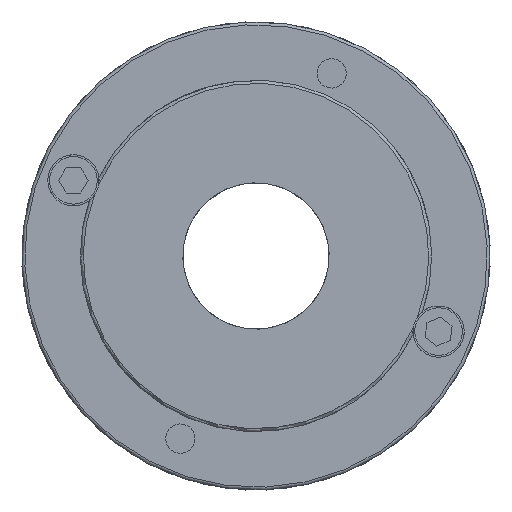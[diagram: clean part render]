
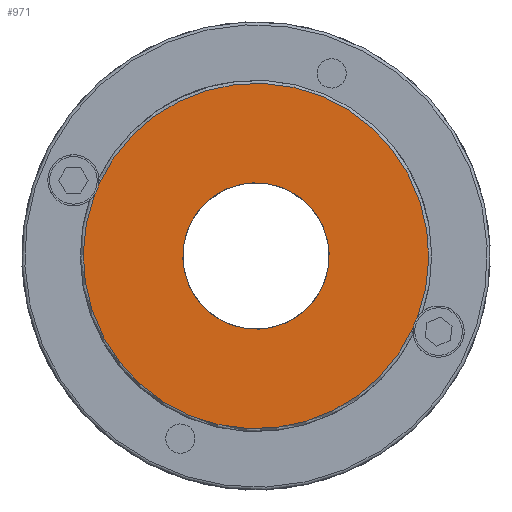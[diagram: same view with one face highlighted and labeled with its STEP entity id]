
A CAD part, front view. The second image highlights one B-rep face of the part: STEP entity #971.
In plain terms, the highlighted planar face has unit normal (0, -1, 0).
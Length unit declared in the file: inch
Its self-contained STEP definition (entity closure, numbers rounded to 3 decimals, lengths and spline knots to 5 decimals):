
#971=ADVANCED_FACE('',(#1150,#1086),#1027,.F.);
#1027=PLANE('',#2053);
#1086=FACE_BOUND('',#1225,.T.);
#1150=FACE_OUTER_BOUND('',#1224,.T.);
#1224=EDGE_LOOP('',(#1441,#1442,#1443,#1444));
#1225=EDGE_LOOP('',(#1445));
#1327=CIRCLE('',#2036,0.92913);
#1330=CIRCLE('',#2041,0.3937);
#1337=CIRCLE('',#2050,0.92913);
#1338=CIRCLE('',#2051,0.1378);
#1339=CIRCLE('',#2052,0.1378);
#1441=ORIENTED_EDGE('',*,*,#1789,.T.);
#1442=ORIENTED_EDGE('',*,*,#1790,.T.);
#1443=ORIENTED_EDGE('',*,*,#1775,.T.);
#1444=ORIENTED_EDGE('',*,*,#1791,.T.);
#1445=ORIENTED_EDGE('',*,*,#1781,.T.);
#1665=VERTEX_POINT('',#2607);
#1666=VERTEX_POINT('',#2616);
#1672=VERTEX_POINT('',#2648);
#1680=VERTEX_POINT('',#2683);
#1681=VERTEX_POINT('',#2684);
#1775=EDGE_CURVE('',#1665,#1666,#1327,.T.);
#1781=EDGE_CURVE('',#1672,#1672,#1330,.T.);
#1789=EDGE_CURVE('',#1680,#1681,#1337,.T.);
#1790=EDGE_CURVE('',#1681,#1665,#1338,.T.);
#1791=EDGE_CURVE('',#1666,#1680,#1339,.T.);
#2036=AXIS2_PLACEMENT_3D('',#2617,#2218,#2219);
#2041=AXIS2_PLACEMENT_3D('',#2647,#2230,#2231);
#2050=AXIS2_PLACEMENT_3D('',#2682,#2248,#2249);
#2051=AXIS2_PLACEMENT_3D('',#2685,#2250,#2251);
#2052=AXIS2_PLACEMENT_3D('',#2686,#2252,#2253);
#2053=AXIS2_PLACEMENT_3D('',#2687,#2254,#2255);
#2218=DIRECTION('',(0.,-1.,0.));
#2219=DIRECTION('',(0.,0.,1.));
#2230=DIRECTION('',(0.,1.,0.));
#2231=DIRECTION('',(1.,0.,0.));
#2248=DIRECTION('',(0.,-1.,0.));
#2249=DIRECTION('',(0.,0.,1.));
#2250=DIRECTION('',(0.,1.,0.));
#2251=DIRECTION('',(0.,0.,1.));
#2252=DIRECTION('',(0.,1.,0.));
#2253=DIRECTION('',(0.,0.,1.));
#2254=DIRECTION('',(0.,1.,0.));
#2255=DIRECTION('',(0.,0.,1.));
#2607=CARTESIAN_POINT('',(0.67826,0.,-0.63502));
#2616=CARTESIAN_POINT('',(-0.63502,0.,0.67826));
#2617=CARTESIAN_POINT('',(0.,0.,0.));
#2647=CARTESIAN_POINT('',(0.,0.,0.));
#2648=CARTESIAN_POINT('',(0.3937,0.,0.));
#2682=CARTESIAN_POINT('',(0.,0.,0.));
#2683=CARTESIAN_POINT('',(-0.67826,0.,0.63502));
#2684=CARTESIAN_POINT('',(0.63502,0.,-0.67826));
#2685=CARTESIAN_POINT('',(0.75165,0.,-0.75165));
#2686=CARTESIAN_POINT('',(-0.75165,0.,0.75165));
#2687=CARTESIAN_POINT('',(0.,0.,0.));
